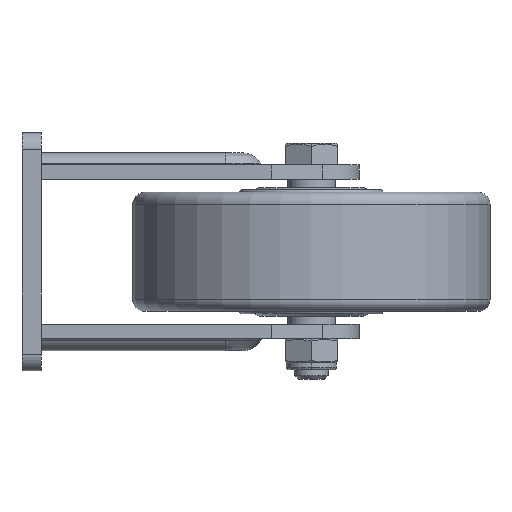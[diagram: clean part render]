
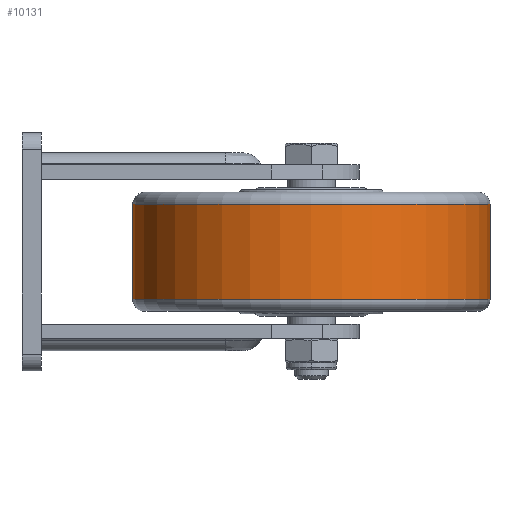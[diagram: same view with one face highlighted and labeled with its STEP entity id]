
A CAD part, left-side view. The second image highlights one B-rep face of the part: STEP entity #10131.
In plain terms, the highlighted cylindrical face has radius 75 mm (diameter 150 mm), a partial arc.
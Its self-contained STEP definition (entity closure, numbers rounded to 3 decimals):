
#7371=CARTESIAN_POINT('',(0.,0.,-20.));
#7372=DIRECTION('',(0.,0.,-1.));
#7373=DIRECTION('',(0.,-1.,0.));
#7374=AXIS2_PLACEMENT_3D('',#7371,#7372,#7373);
#7376=DIRECTION('',(0.,0.,-1.));
#7377=VECTOR('',#7376,40.);
#7378=CARTESIAN_POINT('',(0.,75.,20.));
#7379=LINE('',#7378,#7377);
#7380=DIRECTION('',(0.,0.,-1.));
#7381=VECTOR('',#7380,40.);
#7382=CARTESIAN_POINT('',(0.,-75.,20.));
#7383=LINE('',#7382,#7381);
#7399=CARTESIAN_POINT('',(0.,0.,20.));
#7400=DIRECTION('',(0.,0.,1.));
#7401=DIRECTION('',(0.,1.,0.));
#7402=AXIS2_PLACEMENT_3D('',#7399,#7400,#7401);
#9005=CARTESIAN_POINT('',(0.,75.,-20.));
#9006=CARTESIAN_POINT('',(0.,-75.,-20.));
#9007=VERTEX_POINT('',#9005);
#9008=VERTEX_POINT('',#9006);
#9022=CARTESIAN_POINT('',(0.,-75.,20.));
#9023=VERTEX_POINT('',#9022);
#9150=CARTESIAN_POINT('',(0.,75.,20.));
#9151=VERTEX_POINT('',#9150);
#10117=CARTESIAN_POINT('',(0.,0.,26.));
#10118=DIRECTION('',(0.,0.,1.));
#10119=DIRECTION('',(0.,-1.,0.));
#10120=AXIS2_PLACEMENT_3D('',#10117,#10118,#10119);
#10121=CYLINDRICAL_SURFACE('',#10120,75.);
#10123=ORIENTED_EDGE('',*,*,#10122,.F.);
#10125=ORIENTED_EDGE('',*,*,#10124,.T.);
#10127=ORIENTED_EDGE('',*,*,#10126,.T.);
#10128=ORIENTED_EDGE('',*,*,#10110,.T.);
#10129=EDGE_LOOP('',(#10123,#10125,#10127,#10128));
#10130=FACE_OUTER_BOUND('',#10129,.F.);
#7375=CIRCLE('',#7374,75.);
#7403=CIRCLE('',#7402,75.);
#10110=EDGE_CURVE('',#9008,#9007,#7375,.T.);
#10122=EDGE_CURVE('',#9151,#9007,#7379,.T.);
#10124=EDGE_CURVE('',#9151,#9023,#7403,.T.);
#10126=EDGE_CURVE('',#9023,#9008,#7383,.T.);
#10131=ADVANCED_FACE('',(#10130),#10121,.T.);
